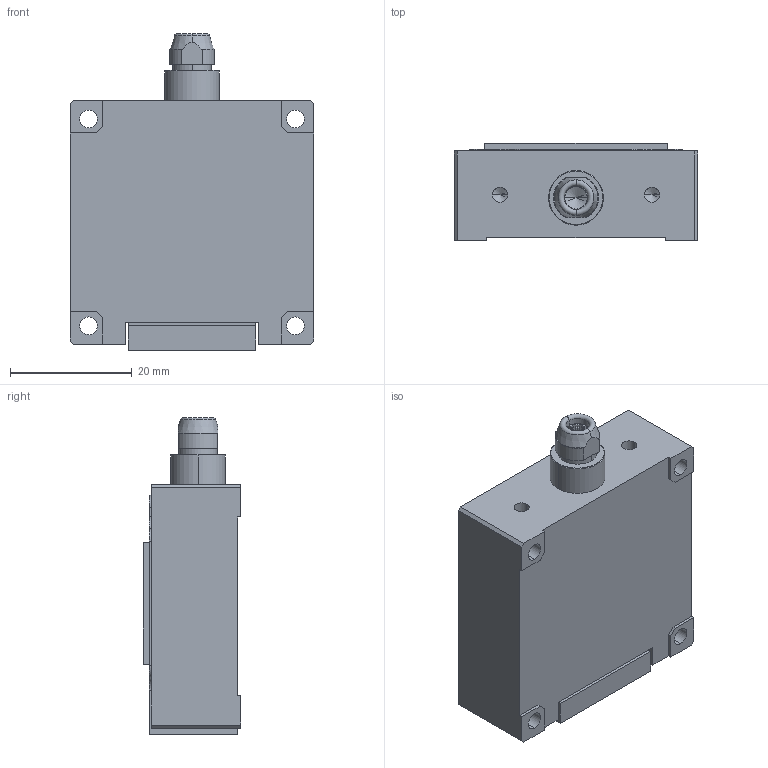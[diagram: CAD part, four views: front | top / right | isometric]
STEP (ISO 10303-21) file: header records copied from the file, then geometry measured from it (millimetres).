
FILE_DESCRIPTION (( 'STEP AP203' ), '1' );
FILE_NAME ('LPx-D00100.STEP', '2023-05-31T07:44:06', ( '' ), ( '' ), 'SwSTEP 2.0', 'SolidWorks 2021', '' );
FILE_SCHEMA (( 'CONFIG_CONTROL_DESIGN' ));
Length unit declared in the file: millimetre
Products named in the file (7): LPO0000040_Grundkörper_EDM; DIN 912 M2 x 3 --- 3N_DIN 912 M2 x 3 --- 3N; LPx-D00100; Deckplatte neu; WIRE OUTLET LEMO D32-D37; FFA_0S_737_CNT CLAMP - WIRE OUTLET - 184; FFA_0S_130_LC CLAMP SCREW- WIRE OUTLET - 184
Assembly tree (9 placements, depth 3):
  LPx-D00100
    LPO0000040_Grundkörper_EDM
    Deckplatte neu
    WIRE OUTLET LEMO D32-D37
      FFA_0S_737_CNT CLAMP - WIRE OUTLET - 184
      FFA_0S_130_LC CLAMP SCREW- WIRE OUTLET - 184
    DIN 912 M2 x 3 --- 3N_DIN 912 M2 x 3 --- 3N  x4
Bounding box: 40 x 16 x 52 mm (x, y, z)
Volume: 22395.4 mm3; surface area: 11736.2 mm2
Topology: 8 solids, 8 shells, 501 faces, 1288 edges, 807 vertices
Faces by surface type: plane 221, cylinder 194, cone 68, torus 18
Entity records: 13849 total; most frequent: DIRECTION 2362, CARTESIAN_POINT 2287, ORIENTED_EDGE 2180, EDGE_CURVE 1090, AXIS2_PLACEMENT_3D 851, VERTEX_POINT 708, LINE 660, VECTOR 660
